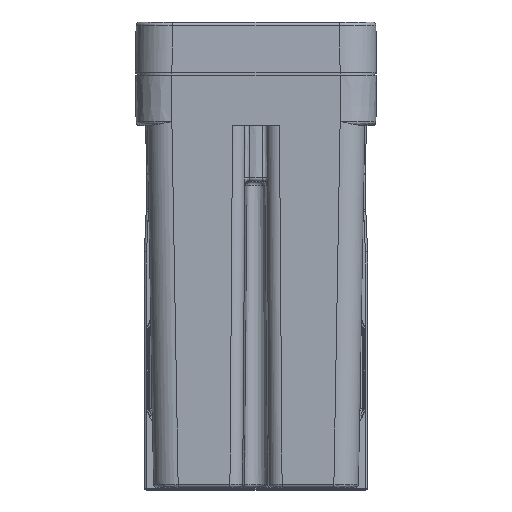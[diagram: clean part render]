
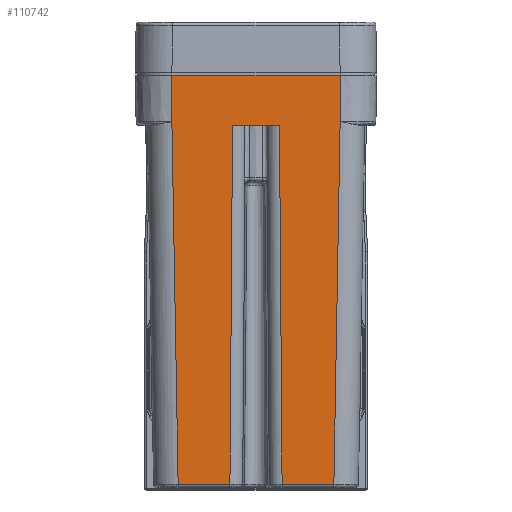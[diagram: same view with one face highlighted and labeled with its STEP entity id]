
A CAD part, top view. The second image highlights one B-rep face of the part: STEP entity #110742.
In plain terms, the highlighted planar face has unit normal (0, -0.018, 1).
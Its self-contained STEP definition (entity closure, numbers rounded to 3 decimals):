
#2600=DIRECTION('',(1.,0.,0.));
#2601=VECTOR('',#2600,6.418);
#2602=CARTESIAN_POINT('',(-3.209,33.3,30.881));
#2603=LINE('',#2602,#2601);
#2763=DIRECTION('',(-1.,0.,0.));
#2764=VECTOR('',#2763,7.08);
#2765=CARTESIAN_POINT('',(10.644,-15.759,30.025));
#2766=LINE('',#2765,#2764);
#2767=DIRECTION('',(-0.007,1.,0.017));
#2768=VECTOR('',#2767,49.067);
#2769=CARTESIAN_POINT('',(3.564,-15.759,30.025));
#2770=LINE('',#2769,#2768);
#2771=DIRECTION('',(-0.007,-1.,-0.017));
#2772=VECTOR('',#2771,49.067);
#2773=CARTESIAN_POINT('',(-3.209,33.3,30.881));
#2774=LINE('',#2773,#2772);
#2775=DIRECTION('',(-1.,0.,0.));
#2776=VECTOR('',#2775,7.08);
#2777=CARTESIAN_POINT('',(-3.564,-15.759,
30.025));
#2778=LINE('',#2777,#2776);
#2779=DIRECTION('',(0.001,1.,0.017));
#2780=VECTOR('',#2779,6.31);
#2781=CARTESIAN_POINT('',(-11.505,33.791,30.89));
#2782=LINE('',#2781,#2780);
#2788=DIRECTION('',(-0.001,1.,0.017));
#2789=VECTOR('',#2788,6.31);
#2790=CARTESIAN_POINT('',(11.505,33.791,30.89));
#2791=LINE('',#2790,#2789);
#3251=DIRECTION('',(0.017,1.,0.017));
#3252=VECTOR('',#3251,49.565);
#3253=CARTESIAN_POINT('',(10.644,-15.759,30.025));
#3254=LINE('',#3253,#3252);
#3388=CARTESIAN_POINT('',(10.644,-15.759,30.025));
#10316=DIRECTION('',(1.,0.,0.));
#10317=VECTOR('',#10316,23.);
#10318=CARTESIAN_POINT('',(-11.5,40.1,31.));
#10319=LINE('',#10318,#10317);
#10463=DIRECTION('',(0.017,-1.,-0.017));
#10464=VECTOR('',#10463,49.565);
#10465=CARTESIAN_POINT('',(-11.505,33.791,
30.89));
#10466=LINE('',#10465,#10464);
#101667=CARTESIAN_POINT('',(-11.5,40.1,31.));
#101669=VERTEX_POINT('',#101667);
#101670=CARTESIAN_POINT('',(11.5,40.1,31.));
#101672=VERTEX_POINT('',#101670);
#101990=CARTESIAN_POINT('',(-11.5,33.791,30.89));
#101992=VERTEX_POINT('',#101990);
#102005=CARTESIAN_POINT('',(11.5,33.791,30.89));
#102007=VERTEX_POINT('',#102005);
#102051=CARTESIAN_POINT('',(-3.564,-15.759,
30.025));
#102052=CARTESIAN_POINT('',(-10.644,-15.759,
30.025));
#102053=VERTEX_POINT('',#102051);
#102054=VERTEX_POINT('',#102052);
#102060=VERTEX_POINT('',#3388);
#102063=CARTESIAN_POINT('',(3.564,-15.759,
30.025));
#102064=VERTEX_POINT('',#102063);
#102065=CARTESIAN_POINT('',(-3.209,33.3,30.881));
#102066=CARTESIAN_POINT('',(3.209,33.3,30.881));
#102067=VERTEX_POINT('',#102065);
#102068=VERTEX_POINT('',#102066);
#110719=CARTESIAN_POINT('',(-14.975,40.1,31.));
#110720=DIRECTION('',(0.,-0.017,1.));
#110721=DIRECTION('',(1.,0.,0.));
#110722=AXIS2_PLACEMENT_3D('',#110719,#110720,#110721);
#110723=PLANE('',#110722);
#110725=ORIENTED_EDGE('',*,*,#110724,.F.);
#110727=ORIENTED_EDGE('',*,*,#110726,.F.);
#110728=ORIENTED_EDGE('',*,*,#110387,.T.);
#110730=ORIENTED_EDGE('',*,*,#110729,.T.);
#110731=ORIENTED_EDGE('',*,*,#110622,.F.);
#110732=ORIENTED_EDGE('',*,*,#110638,.T.);
#110733=ORIENTED_EDGE('',*,*,#110710,.T.);
#110735=ORIENTED_EDGE('',*,*,#110734,.F.);
#110737=ORIENTED_EDGE('',*,*,#110736,.T.);
#110739=ORIENTED_EDGE('',*,*,#110738,.T.);
#110740=EDGE_LOOP('',(#110725,#110727,#110728,#110730,#110731,#110732,#110733,
#110735,#110737,#110739));
#110741=FACE_OUTER_BOUND('',#110740,.F.);
#110387=EDGE_CURVE('',#102060,#102064,#2766,.T.);
#110622=EDGE_CURVE('',#102067,#102068,#2603,.T.);
#110638=EDGE_CURVE('',#102067,#102053,#2774,.T.);
#110710=EDGE_CURVE('',#102053,#102054,#2778,.T.);
#110724=EDGE_CURVE('',#102007,#101672,#2791,.T.);
#110726=EDGE_CURVE('',#102060,#102007,#3254,.T.);
#110729=EDGE_CURVE('',#102064,#102068,#2770,.T.);
#110734=EDGE_CURVE('',#101992,#102054,#10466,.T.);
#110736=EDGE_CURVE('',#101992,#101669,#2782,.T.);
#110738=EDGE_CURVE('',#101669,#101672,#10319,.T.);
#110742=ADVANCED_FACE('',(#110741),#110723,.T.);
